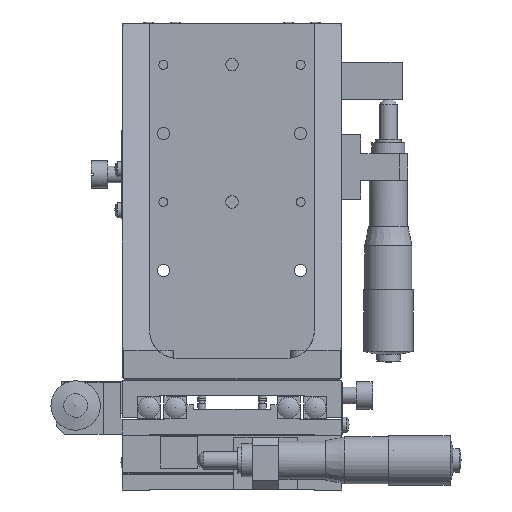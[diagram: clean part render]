
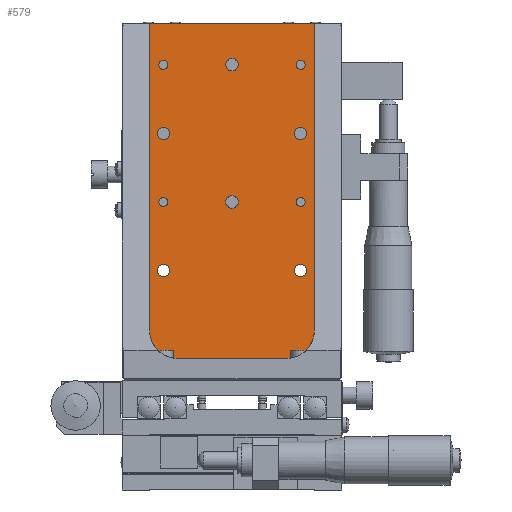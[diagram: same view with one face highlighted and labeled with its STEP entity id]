
A CAD part, left-side view. The second image highlights one B-rep face of the part: STEP entity #579.
In plain terms, the highlighted planar face has unit normal (-1, 0, 0).
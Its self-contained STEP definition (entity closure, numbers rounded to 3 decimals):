
#579 = ADVANCED_FACE( '', ( #1446, #1447, #1448, #1449, #1450, #1451, #1452, #1453, #1454, #1455, #1456 ), #1457, .F. );
#1446 = FACE_BOUND( '', #3333, .T. );
#1447 = FACE_BOUND( '', #3334, .T. );
#1448 = FACE_BOUND( '', #3335, .T. );
#1449 = FACE_BOUND( '', #3336, .T. );
#1450 = FACE_BOUND( '', #3337, .T. );
#1451 = FACE_BOUND( '', #3338, .T. );
#1452 = FACE_BOUND( '', #3339, .T. );
#1453 = FACE_BOUND( '', #3340, .T. );
#1454 = FACE_BOUND( '', #3341, .T. );
#1455 = FACE_BOUND( '', #3342, .T. );
#1456 = FACE_OUTER_BOUND( '', #3343, .T. );
#1457 = PLANE( '', #3344 );
#3333 = EDGE_LOOP( '', ( #5474 ) );
#3334 = EDGE_LOOP( '', ( #5475 ) );
#3335 = EDGE_LOOP( '', ( #5476 ) );
#3336 = EDGE_LOOP( '', ( #5477 ) );
#3337 = EDGE_LOOP( '', ( #5478 ) );
#3338 = EDGE_LOOP( '', ( #5479 ) );
#3339 = EDGE_LOOP( '', ( #5480 ) );
#3340 = EDGE_LOOP( '', ( #5481 ) );
#3341 = EDGE_LOOP( '', ( #5482 ) );
#3342 = EDGE_LOOP( '', ( #5483 ) );
#3343 = EDGE_LOOP( '', ( #5484, #5485, #5486, #5487, #5488, #5489 ) );
#3344 = AXIS2_PLACEMENT_3D( '', #5490, #5491, #5492 );
#5474 = ORIENTED_EDGE( '', *, *, #10410, .T. );
#5475 = ORIENTED_EDGE( '', *, *, #10411, .T. );
#5476 = ORIENTED_EDGE( '', *, *, #10412, .T. );
#5477 = ORIENTED_EDGE( '', *, *, #10413, .T. );
#5478 = ORIENTED_EDGE( '', *, *, #10414, .T. );
#5479 = ORIENTED_EDGE( '', *, *, #10415, .T. );
#5480 = ORIENTED_EDGE( '', *, *, #10416, .T. );
#5481 = ORIENTED_EDGE( '', *, *, #10417, .T. );
#5482 = ORIENTED_EDGE( '', *, *, #10418, .T. );
#5483 = ORIENTED_EDGE( '', *, *, #10419, .T. );
#5484 = ORIENTED_EDGE( '', *, *, #10365, .F. );
#5485 = ORIENTED_EDGE( '', *, *, #10367, .F. );
#5486 = ORIENTED_EDGE( '', *, *, #10347, .F. );
#5487 = ORIENTED_EDGE( '', *, *, #10342, .F. );
#5488 = ORIENTED_EDGE( '', *, *, #10378, .F. );
#5489 = ORIENTED_EDGE( '', *, *, #10358, .F. );
#5490 = CARTESIAN_POINT( '', ( 32., 20., 58. ) );
#5491 = DIRECTION( '', ( 1., 0., 0. ) );
#5492 = DIRECTION( '', ( 0., 1., 0. ) );
#10342 = EDGE_CURVE( '', #11952, #11954, #11955, .T. );
#10347 = EDGE_CURVE( '', #11954, #11963, #11964, .T. );
#10358 = EDGE_CURVE( '', #11982, #11984, #11985, .T. );
#10365 = EDGE_CURVE( '', #11995, #11982, #11997, .T. );
#10367 = EDGE_CURVE( '', #11963, #11995, #11999, .T. );
#10378 = EDGE_CURVE( '', #11984, #11952, #12019, .T. );
#10410 = EDGE_CURVE( '', #12066, #12066, #12067, .T. );
#10411 = EDGE_CURVE( '', #12068, #12068, #12069, .T. );
#10412 = EDGE_CURVE( '', #12070, #12070, #12071, .T. );
#10413 = EDGE_CURVE( '', #12072, #12072, #12073, .T. );
#10414 = EDGE_CURVE( '', #12074, #12074, #12075, .T. );
#10415 = EDGE_CURVE( '', #12076, #12076, #12077, .T. );
#10416 = EDGE_CURVE( '', #12078, #12078, #12079, .T. );
#10417 = EDGE_CURVE( '', #12080, #12080, #12081, .T. );
#10418 = EDGE_CURVE( '', #12082, #12082, #12083, .T. );
#10419 = EDGE_CURVE( '', #12084, #12084, #12085, .T. );
#11952 = VERTEX_POINT( '', #14537 );
#11954 = VERTEX_POINT( '', #14540 );
#11955 = LINE( '', #14541, #14542 );
#11963 = VERTEX_POINT( '', #14685 );
#11964 = CIRCLE( '', #14686, 10. );
#11982 = VERTEX_POINT( '', #14711 );
#11984 = VERTEX_POINT( '', #14714 );
#11985 = LINE( '', #14715, #14716 );
#11995 = VERTEX_POINT( '', #14873 );
#11997 = CIRCLE( '', #14876, 10. );
#11999 = LINE( '', #14879, #14880 );
#12019 = LINE( '', #14904, #14905 );
#12066 = VERTEX_POINT( '', #14983 );
#12067 = CIRCLE( '', #14984, 1.65 );
#12068 = VERTEX_POINT( '', #14985 );
#12069 = CIRCLE( '', #14986, 1.65 );
#12070 = VERTEX_POINT( '', #14987 );
#12071 = CIRCLE( '', #14988, 1.65 );
#12072 = VERTEX_POINT( '', #14989 );
#12073 = CIRCLE( '', #14990, 1.65 );
#12074 = VERTEX_POINT( '', #14991 );
#12075 = CIRCLE( '', #14992, 2.25 );
#12076 = VERTEX_POINT( '', #14993 );
#12077 = CIRCLE( '', #14994, 2.25 );
#12078 = VERTEX_POINT( '', #14995 );
#12079 = CIRCLE( '', #14996, 2.25 );
#12080 = VERTEX_POINT( '', #14997 );
#12081 = CIRCLE( '', #14998, 2.25 );
#12082 = VERTEX_POINT( '', #14999 );
#12083 = CIRCLE( '', #15000, 2.25 );
#12084 = VERTEX_POINT( '', #15001 );
#12085 = CIRCLE( '', #15002, 2.25 );
#14537 = CARTESIAN_POINT( '', ( 32., -30., 170. ) );
#14540 = CARTESIAN_POINT( '', ( 32., -30., 58. ) );
#14541 = CARTESIAN_POINT( '', ( 32., -30., 170. ) );
#14542 = VECTOR( '', #18647, 1000. );
#14685 = CARTESIAN_POINT( '', ( 32., -20., 48. ) );
#14686 = AXIS2_PLACEMENT_3D( '', #18652, #18653, #18654 );
#14711 = CARTESIAN_POINT( '', ( 32., 30., 58. ) );
#14714 = CARTESIAN_POINT( '', ( 32., 30., 170. ) );
#14715 = CARTESIAN_POINT( '', ( 32., 30., 58. ) );
#14716 = VECTOR( '', #18669, 1000. );
#14873 = CARTESIAN_POINT( '', ( 32., 20., 48. ) );
#14876 = AXIS2_PLACEMENT_3D( '', #18678, #18679, #18680 );
#14879 = CARTESIAN_POINT( '', ( 32., -20., 48. ) );
#14880 = VECTOR( '', #18682, 1000. );
#14904 = CARTESIAN_POINT( '', ( 32., 30., 170. ) );
#14905 = VECTOR( '', #18705, 1000. );
#14983 = CARTESIAN_POINT( '', ( 32., -25., 153.35 ) );
#14984 = AXIS2_PLACEMENT_3D( '', #18737, #18738, #18739 );
#14985 = CARTESIAN_POINT( '', ( 32., 25., 153.35 ) );
#14986 = AXIS2_PLACEMENT_3D( '', #18740, #18741, #18742 );
#14987 = CARTESIAN_POINT( '', ( 32., 25., 103.35 ) );
#14988 = AXIS2_PLACEMENT_3D( '', #18743, #18744, #18745 );
#14989 = CARTESIAN_POINT( '', ( 32., -25., 103.35 ) );
#14990 = AXIS2_PLACEMENT_3D( '', #18746, #18747, #18748 );
#14991 = CARTESIAN_POINT( '', ( 32., 0., 152.75 ) );
#14992 = AXIS2_PLACEMENT_3D( '', #18749, #18750, #18751 );
#14993 = CARTESIAN_POINT( '', ( 32., 0., 102.75 ) );
#14994 = AXIS2_PLACEMENT_3D( '', #18752, #18753, #18754 );
#14995 = CARTESIAN_POINT( '', ( 32., -25., 127.75 ) );
#14996 = AXIS2_PLACEMENT_3D( '', #18755, #18756, #18757 );
#14997 = CARTESIAN_POINT( '', ( 32., 25., 127.75 ) );
#14998 = AXIS2_PLACEMENT_3D( '', #18758, #18759, #18760 );
#14999 = CARTESIAN_POINT( '', ( 32., 25., 77.75 ) );
#15000 = AXIS2_PLACEMENT_3D( '', #18761, #18762, #18763 );
#15001 = CARTESIAN_POINT( '', ( 32., -25., 77.75 ) );
#15002 = AXIS2_PLACEMENT_3D( '', #18764, #18765, #18766 );
#18647 = DIRECTION( '', ( 0., 0., -1. ) );
#18652 = CARTESIAN_POINT( '', ( 32., -20., 58. ) );
#18653 = DIRECTION( '', ( 1., 0., 0. ) );
#18654 = DIRECTION( '', ( 0., -1., 0. ) );
#18669 = DIRECTION( '', ( 0., 0., 1. ) );
#18678 = CARTESIAN_POINT( '', ( 32., 20., 58. ) );
#18679 = DIRECTION( '', ( 1., 0., 0. ) );
#18680 = DIRECTION( '', ( 0., 0., -1. ) );
#18682 = DIRECTION( '', ( 0., 1., 0. ) );
#18705 = DIRECTION( '', ( 0., -1., 0. ) );
#18737 = CARTESIAN_POINT( '', ( 32., -25., 155. ) );
#18738 = DIRECTION( '', ( 1., 0., 0. ) );
#18739 = DIRECTION( '', ( 0., 0., -1. ) );
#18740 = CARTESIAN_POINT( '', ( 32., 25., 155. ) );
#18741 = DIRECTION( '', ( 1., 0., 0. ) );
#18742 = DIRECTION( '', ( 0., 0., -1. ) );
#18743 = CARTESIAN_POINT( '', ( 32., 25., 105. ) );
#18744 = DIRECTION( '', ( 1., 0., 0. ) );
#18745 = DIRECTION( '', ( 0., 0., -1. ) );
#18746 = CARTESIAN_POINT( '', ( 32., -25., 105. ) );
#18747 = DIRECTION( '', ( 1., 0., 0. ) );
#18748 = DIRECTION( '', ( 0., 0., -1. ) );
#18749 = CARTESIAN_POINT( '', ( 32., 0., 155. ) );
#18750 = DIRECTION( '', ( 1., 0., 0. ) );
#18751 = DIRECTION( '', ( 0., 0., -1. ) );
#18752 = CARTESIAN_POINT( '', ( 32., 0., 105. ) );
#18753 = DIRECTION( '', ( 1., 0., 0. ) );
#18754 = DIRECTION( '', ( 0., 0., -1. ) );
#18755 = CARTESIAN_POINT( '', ( 32., -25., 130. ) );
#18756 = DIRECTION( '', ( 1., 0., 0. ) );
#18757 = DIRECTION( '', ( 0., 0., -1. ) );
#18758 = CARTESIAN_POINT( '', ( 32., 25., 130. ) );
#18759 = DIRECTION( '', ( 1., 0., 0. ) );
#18760 = DIRECTION( '', ( 0., 0., -1. ) );
#18761 = CARTESIAN_POINT( '', ( 32., 25., 80. ) );
#18762 = DIRECTION( '', ( 1., 0., 0. ) );
#18763 = DIRECTION( '', ( 0., 0., -1. ) );
#18764 = CARTESIAN_POINT( '', ( 32., -25., 80. ) );
#18765 = DIRECTION( '', ( 1., 0., 0. ) );
#18766 = DIRECTION( '', ( 0., 0., -1. ) );
